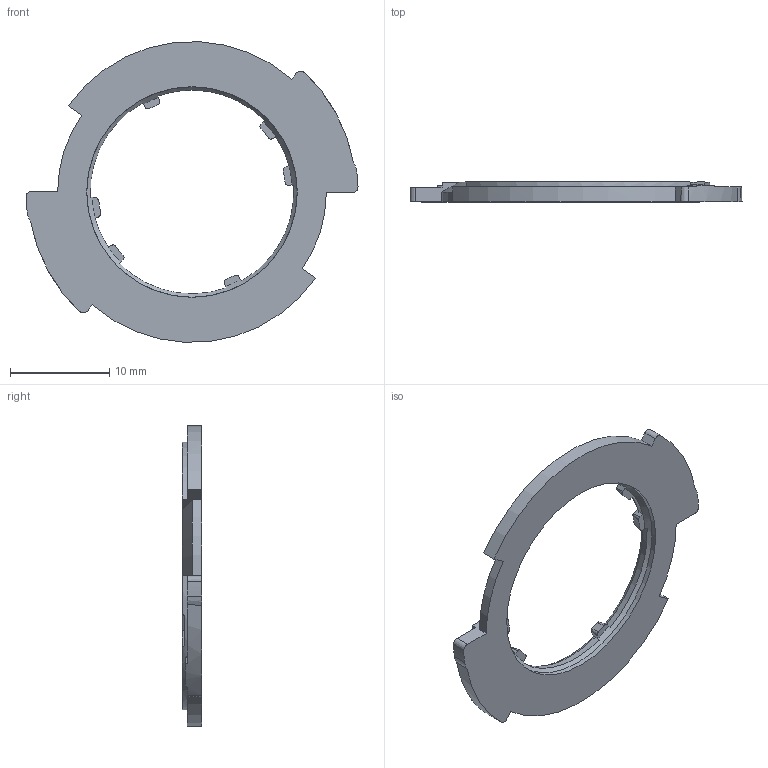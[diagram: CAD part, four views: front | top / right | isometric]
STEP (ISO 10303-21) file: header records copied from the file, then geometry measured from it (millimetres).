
FILE_DESCRIPTION(/* description */ (''),/* implementation_level */ '2;1');
FILE_NAME(/* name */ 'ARK-RH-LA.step',/* time_stamp */ '2024-10-08T10:07:28-04:00',/* author */ (''),/* organization */ (''),/* preprocessor_version */ 'ST-DEVELOPER v20',/* originating_system */ 'Autodesk Translation Framework v13.20.0.188',/* authorisation */ '');
FILE_SCHEMA (('AUTOMOTIVE_DESIGN { 1 0 10303 214 3 1 1 }'));
Length unit declared in the file: millimetre
Products named in the file (1): Reflector Holder - LES 18
Bounding box: 33.45 x 2 x 30.28 mm (x, y, z)
Volume: 687.6 mm3; surface area: 1118 mm2
Topology: 1 solids, 1 shells, 89 faces, 259 edges, 171 vertices
Faces by surface type: cone 41, plane 33, torus 6, bspline 5, cylinder 4
Entity records: 3646 total; most frequent: CARTESIAN_POINT 1278, ORIENTED_EDGE 518, DIRECTION 466, EDGE_CURVE 259, AXIS2_PLACEMENT_3D 193, VERTEX_POINT 171, CIRCLE 100, EDGE_LOOP 90
